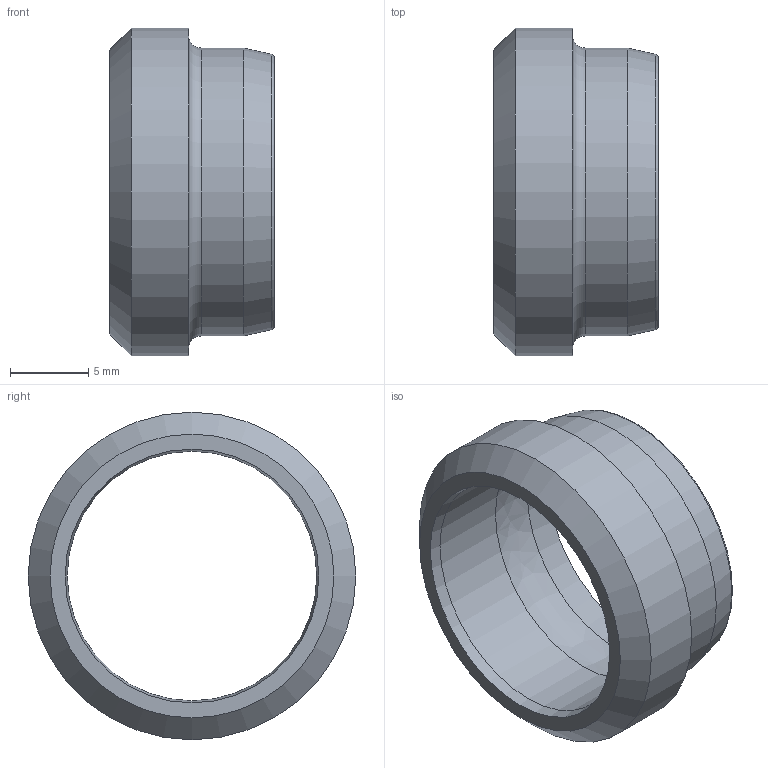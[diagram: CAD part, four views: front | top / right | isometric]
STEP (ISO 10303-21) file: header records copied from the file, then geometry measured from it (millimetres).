
FILE_DESCRIPTION( ( 'Unknown' ), '1' );
FILE_NAME( 'C:/Users/p.nanko/Desktop/3D SR/D16S.stp', 'Unknown', ( 'Peter Nanko' ), ( 'Armaturen Arndt' ), 'PSStep 14.0', 'Solid Edge ST4', ' ' );
FILE_SCHEMA( ( 'AUTOMOTIVE_DESIGN { 1 0 10303 214 1 1 1 1 }' ) );
Length unit declared in the file: millimetre
Products named in the file (1): 1001ESTERNO#0
Bounding box: 10.57 x 21 x 21 mm (x, y, z)
Volume: 971.3 mm3; surface area: 1389.1 mm2
Topology: 1 solids, 1 shells, 15 faces, 31 edges, 20 vertices
Faces by surface type: plane 4, cone 4, torus 3, cylinder 3, bspline 1
Full cylindrical faces by diameter (mm): 16 x1, 18.45 x1, 21 x1
Entity records: 467 total; most frequent: CARTESIAN_POINT 73, DIRECTION 60, AXIS2_PLACEMENT_3D 30, EDGE_LOOP 30, ORIENTED_EDGE 30, FACE_OUTER_BOUND 22, STYLED_ITEM 15, PRESENTATION_STYLE_ASSIGNMENT 15
